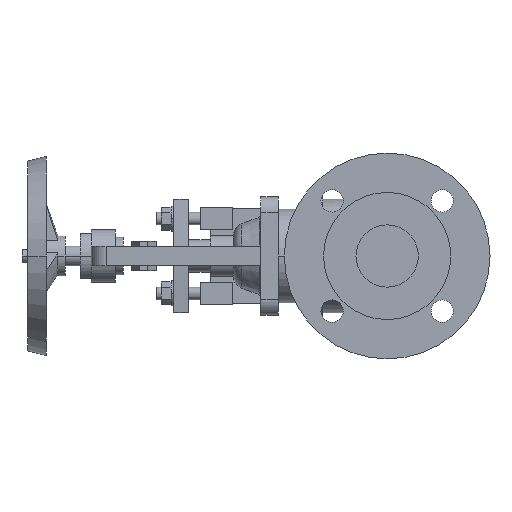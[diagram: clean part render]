
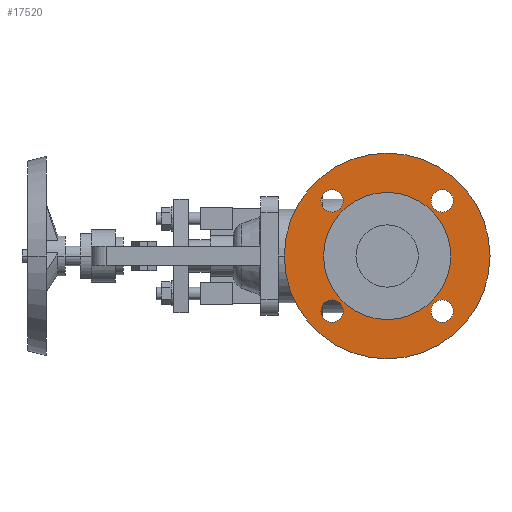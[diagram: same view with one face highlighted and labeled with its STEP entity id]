
A CAD part, left-side view. The second image highlights one B-rep face of the part: STEP entity #17520.
In plain terms, the highlighted planar face has unit normal (-1, 0, 0).
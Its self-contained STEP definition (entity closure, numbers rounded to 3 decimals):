
#8880=CARTESIAN_POINT('',(3.,0.,-82.5));
#8890=VERTEX_POINT('',#8880);
#9050=CARTESIAN_POINT('',(3.,0.,82.5));
#9060=VERTEX_POINT('',#9050);
#9090=CARTESIAN_POINT('',(3.,0.,0.));
#9100=DIRECTION('',(1.,0.,0.));
#9110=DIRECTION('',(0.,0.,-1.));
#9120=AXIS2_PLACEMENT_3D('',#9090,#9100,#9110);
#9130=CIRCLE('',#9120,82.5);
#9140=EDGE_CURVE('',#8890,#9060,#9130,.T.);
#9370=CARTESIAN_POINT('',(3.,44.194,-53.194));
#9380=VERTEX_POINT('',#9370);
#9410=CARTESIAN_POINT('',(3.,44.194,-44.194));
#9420=DIRECTION('',(-1.,0.,0.));
#9430=DIRECTION('',(0.,0.,-1.));
#9440=AXIS2_PLACEMENT_3D('',#9410,#9420,#9430);
#9450=CIRCLE('',#9440,9.);
#9460=CARTESIAN_POINT('',(3.,44.194,-35.194));
#9470=VERTEX_POINT('',#9460);
#9480=EDGE_CURVE('',#9470,#9380,#9450,.T.);
#9860=CARTESIAN_POINT('',(3.,-44.194,-53.194));
#9870=VERTEX_POINT('',#9860);
#10030=CARTESIAN_POINT('',(3.,-44.194,-35.194));
#10040=VERTEX_POINT('',#10030);
#10070=CARTESIAN_POINT('',(3.,-44.194,-44.194));
#10080=DIRECTION('',(-1.,0.,0.));
#10090=DIRECTION('',(0.,0.,-1.));
#10100=AXIS2_PLACEMENT_3D('',#10070,#10080,#10090);
#10110=CIRCLE('',#10100,9.);
#10120=EDGE_CURVE('',#9870,#10040,#10110,.T.);
#10350=CARTESIAN_POINT('',(3.,-44.194,53.194));
#10360=VERTEX_POINT('',#10350);
#10390=CARTESIAN_POINT('',(3.,-44.194,44.194));
#10400=DIRECTION('',(-1.,0.,0.));
#10410=DIRECTION('',(0.,0.,-1.));
#10420=AXIS2_PLACEMENT_3D('',#10390,#10400,#10410);
#10430=CIRCLE('',#10420,9.);
#10440=CARTESIAN_POINT('',(3.,-44.194,35.194));
#10450=VERTEX_POINT('',#10440);
#10460=EDGE_CURVE('',#10450,#10360,#10430,.T.);
#10840=CARTESIAN_POINT('',(3.,44.194,53.194));
#10850=VERTEX_POINT('',#10840);
#10880=CARTESIAN_POINT('',(3.,44.194,44.194));
#10890=DIRECTION('',(-1.,0.,0.));
#10900=DIRECTION('',(0.,0.,-1.));
#10910=AXIS2_PLACEMENT_3D('',#10880,#10890,#10900);
#10920=CIRCLE('',#10910,9.);
#10930=CARTESIAN_POINT('',(3.,44.194,35.194));
#10940=VERTEX_POINT('',#10930);
#10950=EDGE_CURVE('',#10940,#10850,#10920,.T.);
#11330=CARTESIAN_POINT('',(3.,-51.,0.));
#11340=VERTEX_POINT('',#11330);
#11500=CARTESIAN_POINT('',(3.,51.,0.));
#11510=VERTEX_POINT('',#11500);
#11540=CARTESIAN_POINT('',(3.,0.,0.));
#11550=DIRECTION('',(-1.,0.,0.));
#11560=DIRECTION('',(0.,1.,0.));
#11570=AXIS2_PLACEMENT_3D('',#11540,#11550,#11560);
#11580=CIRCLE('',#11570,51.);
#11590=EDGE_CURVE('',#11340,#11510,#11580,.T.);
#17170=CARTESIAN_POINT('',(3.,66.75,0.));
#17180=DIRECTION('',(1.,0.,0.));
#17190=DIRECTION('',(0.,-1.,0.));
#17200=AXIS2_PLACEMENT_3D('',#17170,#17180,#17190);
#17210=PLANE('',#17200);
#17220=EDGE_CURVE('',#11510,#11340,#11580,.T.);
#17230=ORIENTED_EDGE('',*,*,#17220,.F.);
#17240=ORIENTED_EDGE('',*,*,#11590,.F.);
#17250=EDGE_LOOP('',(#17240,#17230));
#17260=FACE_BOUND('',#17250,.T.);
#17270=EDGE_CURVE('',#9060,#8890,#9130,.T.);
#17280=ORIENTED_EDGE('',*,*,#17270,.F.);
#17290=ORIENTED_EDGE('',*,*,#9140,.F.);
#17300=EDGE_LOOP('',(#17290,#17280));
#17310=FACE_OUTER_BOUND('',#17300,.T.);
#17320=EDGE_CURVE('',#9380,#9470,#9450,.T.);
#17330=ORIENTED_EDGE('',*,*,#17320,.F.);
#17340=ORIENTED_EDGE('',*,*,#9480,.F.);
#17350=EDGE_LOOP('',(#17340,#17330));
#17360=FACE_BOUND('',#17350,.T.);
#17370=EDGE_CURVE('',#10040,#9870,#10110,.T.);
#17380=ORIENTED_EDGE('',*,*,#17370,.F.);
#17390=ORIENTED_EDGE('',*,*,#10120,.F.);
#17400=EDGE_LOOP('',(#17390,#17380));
#17410=FACE_BOUND('',#17400,.T.);
#17420=EDGE_CURVE('',#10360,#10450,#10430,.T.);
#17430=ORIENTED_EDGE('',*,*,#17420,.F.);
#17440=ORIENTED_EDGE('',*,*,#10460,.F.);
#17450=EDGE_LOOP('',(#17440,#17430));
#17460=FACE_BOUND('',#17450,.T.);
#17470=ORIENTED_EDGE('',*,*,#10950,.F.);
#17480=EDGE_CURVE('',#10850,#10940,#10920,.T.);
#17490=ORIENTED_EDGE('',*,*,#17480,.F.);
#17500=EDGE_LOOP('',(#17490,#17470));
#17510=FACE_BOUND('',#17500,.T.);
#17520=ADVANCED_FACE('',(#17260,#17310,#17360,#17410,#17460,#17510),
#17210,.F.);
